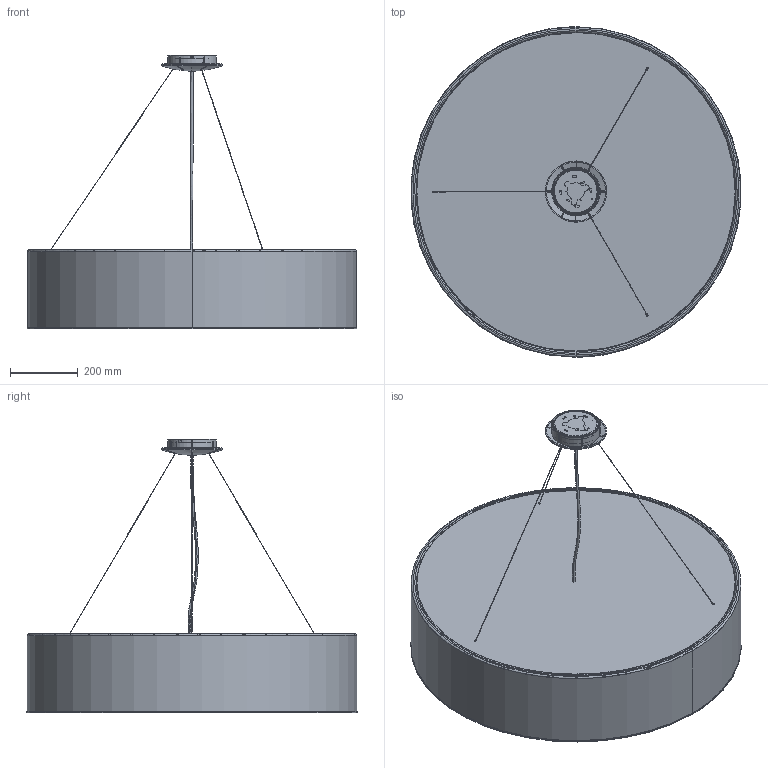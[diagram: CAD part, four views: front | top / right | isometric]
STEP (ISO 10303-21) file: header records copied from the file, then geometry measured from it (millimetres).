
FILE_DESCRIPTION(/* description */ (''),/* implementation_level */ '2;1');
FILE_NAME(/* name */ 'Tagora 970 suspension',/* time_stamp */ '2018-02-26T16:46:59+01:00',/* author */ (''),/* organization */ (''),/* preprocessor_version */ 'ST-DEVELOPER v15',/* originating_system */ '',/* authorisation */ '');
FILE_SCHEMA (('CONFIG_CONTROL_DESIGN'));
Length unit declared in the file: millimetre
Products named in the file (1): Document
Bounding box: 971.21 x 973 x 804.68 mm (x, y, z)
Volume: 6776693.7 mm3; surface area: 6081211.7 mm2
Topology: 8 solids, 12 shells, 596 faces, 1484 edges, 911 vertices
Faces by surface type: bspline 422, plane 174
Entity records: 29170 total; most frequent: CARTESIAN_POINT 20572, ORIENTED_EDGE 2843, EDGE_CURVE 1466, VERTEX_POINT 901, B_SPLINE_CURVE_WITH_KNOTS 751, EDGE_LOOP 672, ADVANCED_FACE 585, FACE_OUTER_BOUND 585
